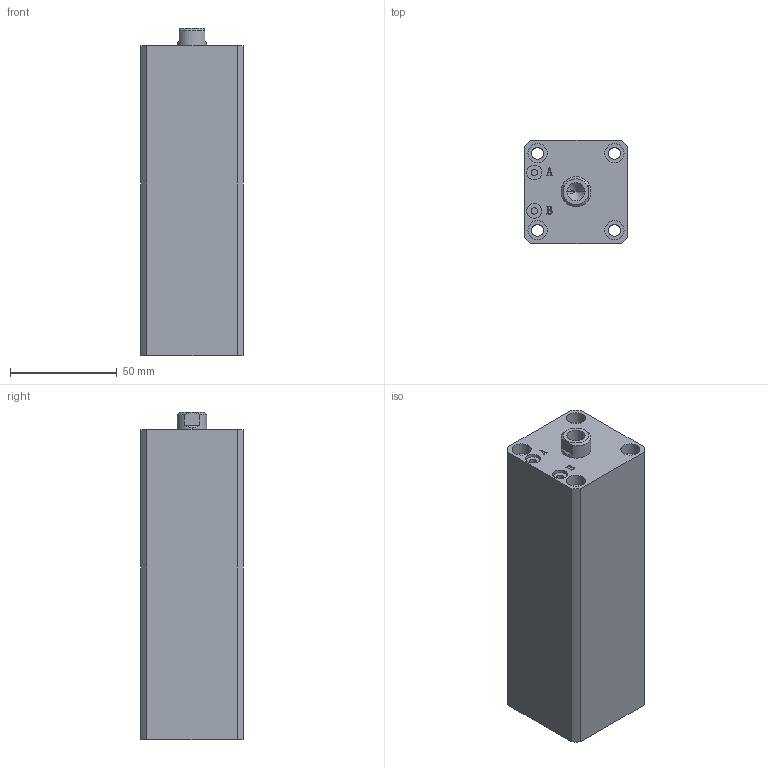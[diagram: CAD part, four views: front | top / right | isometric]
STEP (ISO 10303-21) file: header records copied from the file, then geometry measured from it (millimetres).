
FILE_DESCRIPTION (( 'STEP AP203' ), '1' );
FILE_NAME ('HTB-SDMA25-100N.STEP', '2019-10-07T11:18:06', ( '微软用户' ), ( '微软中国' ), 'SwSTEP 2.0', 'SolidWorks 2012', '' );
FILE_SCHEMA (( 'CONFIG_CONTROL_DESIGN' ));
Length unit declared in the file: millimetre
Products named in the file (3): HTB-SDMA25-100掛极; HTB-SDMA25-100N活塞杆; HTB-SDMA25-100N
Assembly tree (2 placements, depth 2):
  HTB-SDMA25-100N
    HTB-SDMA25-100掛极
    HTB-SDMA25-100N活塞杆
Bounding box: 48 x 48 x 153 mm (x, y, z)
Volume: 281973.4 mm3; surface area: 61221 mm2
Topology: 2 solids, 2 shells, 137 faces, 329 edges, 215 vertices
Faces by surface type: plane 65, cylinder 46, bspline 16, torus 6, cone 4
Entity records: 5072 total; most frequent: CARTESIAN_POINT 1592, ORIENTED_EDGE 654, DIRECTION 645, EDGE_CURVE 327, AXIS2_PLACEMENT_3D 232, VERTEX_POINT 215, LINE 181, VECTOR 181
